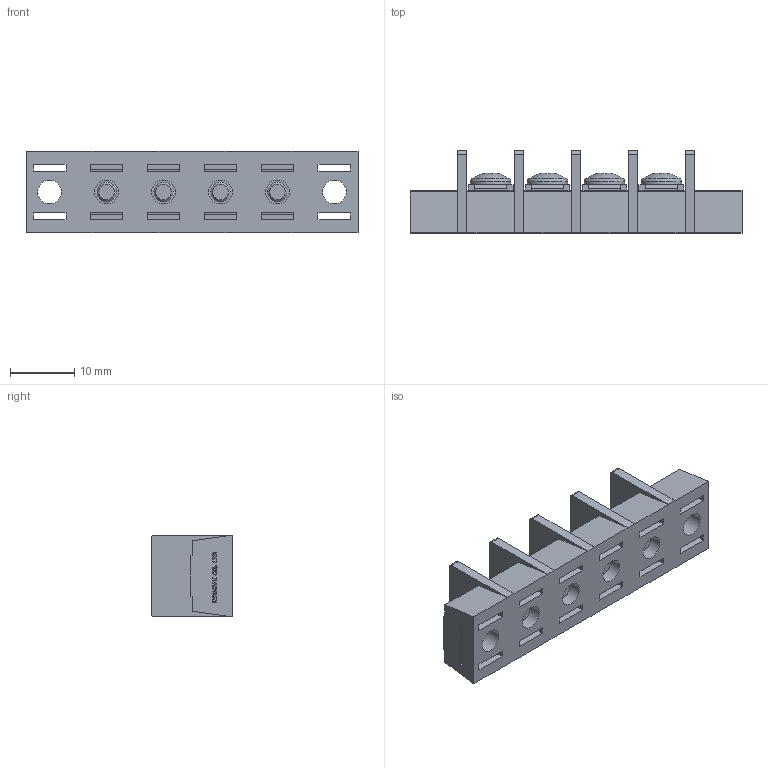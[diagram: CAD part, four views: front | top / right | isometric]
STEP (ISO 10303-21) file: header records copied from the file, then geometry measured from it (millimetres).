
FILE_DESCRIPTION(/* description */ ('Alibre Inc.'),/* implementation_level */ '2;1');
FILE_NAME(/* name */ 'export0',/* time_stamp */ '2015-10-20T20:34:54+09:00',/* author */ (''),/* organization */ (''),/* preprocessor_version */ 'ST-DEVELOPER v14',/* originating_system */ 'Alibre',/* authorisation */ '');
FILE_SCHEMA (('CONFIG_CONTROL_DESIGN'));
Length unit declared in the file: centimetre
Products named in the file (1): ID_1
Bounding box: 51.85 x 12.8 x 12.8 mm (x, y, z)
Volume: 4325.6 mm3; surface area: 5285 mm2
Topology: 1 solids, 69 shells, 1520 faces, 3914 edges, 2590 vertices
Faces by surface type: plane 1134, bspline 312, cylinder 42, cone 20, torus 8, sphere 4
Full cylindrical faces by diameter (mm): 3 x8, 3.7 x6, 4.6 x6, 6.3 x4
Entity records: 44283 total; most frequent: CARTESIAN_POINT 10807, ORIENTED_EDGE 7744, DIRECTION 4574, EDGE_CURVE 3872, VECTOR 3006, LINE 3006, VERTEX_POINT 2584, EDGE_LOOP 1682
